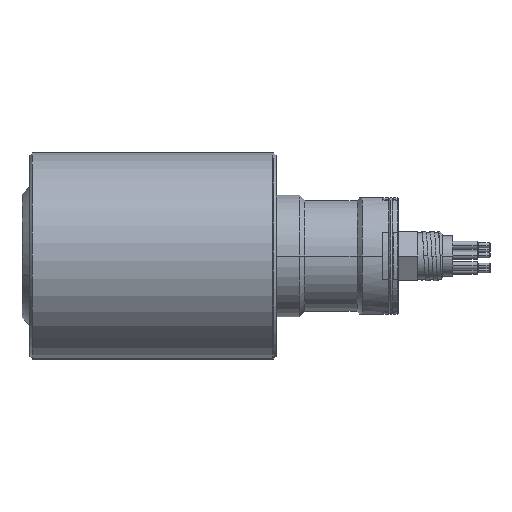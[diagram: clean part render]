
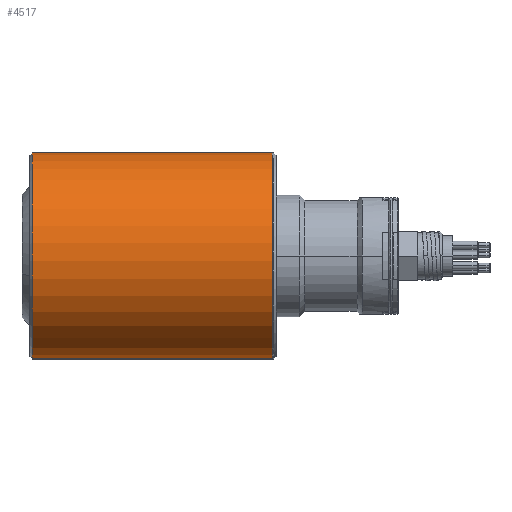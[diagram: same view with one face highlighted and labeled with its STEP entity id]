
A CAD part, left-side view. The second image highlights one B-rep face of the part: STEP entity #4517.
In plain terms, the highlighted cylindrical face has radius 39.998 mm (diameter 79.997 mm), a partial arc.
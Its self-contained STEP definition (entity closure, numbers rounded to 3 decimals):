
#156 = DIRECTION ( 'NONE',  ( -0.122, 0., -0.992 ) ) ;
#212 = LINE ( 'NONE', #1776, #14202 ) ;
#577 = ORIENTED_EDGE ( 'NONE', *, *, #5878, .T. ) ;
#654 = DIRECTION ( 'NONE',  ( 0., -1., 0. ) ) ;
#1573 = EDGE_CURVE ( 'NONE', #19403, #8575, #18726, .T. ) ;
#1776 = CARTESIAN_POINT ( 'NONE',  ( 4.894, 142.45, 39.698 ) ) ;
#1990 = ORIENTED_EDGE ( 'NONE', *, *, #20611, .F. ) ;
#2622 = DIRECTION ( 'NONE',  ( -0.122, 0., -0.992 ) ) ;
#3431 = EDGE_CURVE ( 'NONE', #11297, #8575, #11685, .T. ) ;
#3447 = CARTESIAN_POINT ( 'NONE',  ( -4.894, 48.8, -39.698 ) ) ;
#4517 = ADVANCED_FACE ( 'NONE', ( #19542 ), #8295, .T. ) ;
#5878 = EDGE_CURVE ( 'NONE', #16125, #11297, #6958, .T. ) ;
#6276 = AXIS2_PLACEMENT_3D ( 'NONE', #9713, #16029, #156 ) ;
#6461 = VECTOR ( 'NONE', #654, 1000. ) ;
#6958 = CIRCLE ( 'NONE', #19737, 39.998 ) ;
#8242 = CARTESIAN_POINT ( 'NONE',  ( 4.894, 141.8, 39.698 ) ) ;
#8295 = CYLINDRICAL_SURFACE ( 'NONE', #6276, 39.998 ) ;
#8575 = VERTEX_POINT ( 'NONE', #3447 ) ;
#8957 = CARTESIAN_POINT ( 'NONE',  ( 0., 48.8, 0. ) ) ;
#9713 = CARTESIAN_POINT ( 'NONE',  ( 0., 142.45, 0. ) ) ;
#10545 = ORIENTED_EDGE ( 'NONE', *, *, #3431, .T. ) ;
#11076 = CARTESIAN_POINT ( 'NONE',  ( 0., 141.8, 0. ) ) ;
#11177 = CARTESIAN_POINT ( 'NONE',  ( -4.894, 141.8, -39.698 ) ) ;
#11270 = DIRECTION ( 'NONE',  ( 0., -1., 0. ) ) ;
#11297 = VERTEX_POINT ( 'NONE', #11177 ) ;
#11573 = DIRECTION ( 'NONE',  ( 0., -1., 0. ) ) ;
#11685 = LINE ( 'NONE', #17951, #6461 ) ;
#14076 = ORIENTED_EDGE ( 'NONE', *, *, #1573, .F. ) ;
#14202 = VECTOR ( 'NONE', #11573, 1000. ) ;
#14296 = DIRECTION ( 'NONE',  ( 0.122, 0., 0.992 ) ) ;
#14386 = EDGE_LOOP ( 'NONE', ( #1990, #577, #10545, #14076 ) ) ;
#16029 = DIRECTION ( 'NONE',  ( 0., -1., 0. ) ) ;
#16125 = VERTEX_POINT ( 'NONE', #8242 ) ;
#17951 = CARTESIAN_POINT ( 'NONE',  ( -4.894, 142.45, -39.698 ) ) ;
#18524 = AXIS2_PLACEMENT_3D ( 'NONE', #8957, #20135, #2622 ) ;
#18540 = CARTESIAN_POINT ( 'NONE',  ( 4.894, 48.8, 39.698 ) ) ;
#18726 = CIRCLE ( 'NONE', #18524, 39.998 ) ;
#19403 = VERTEX_POINT ( 'NONE', #18540 ) ;
#19542 = FACE_OUTER_BOUND ( 'NONE', #14386, .T. ) ;
#19737 = AXIS2_PLACEMENT_3D ( 'NONE', #11076, #11270, #14296 ) ;
#20135 = DIRECTION ( 'NONE',  ( 0., -1., 0. ) ) ;
#20611 = EDGE_CURVE ( 'NONE', #16125, #19403, #212, .T. ) ;
